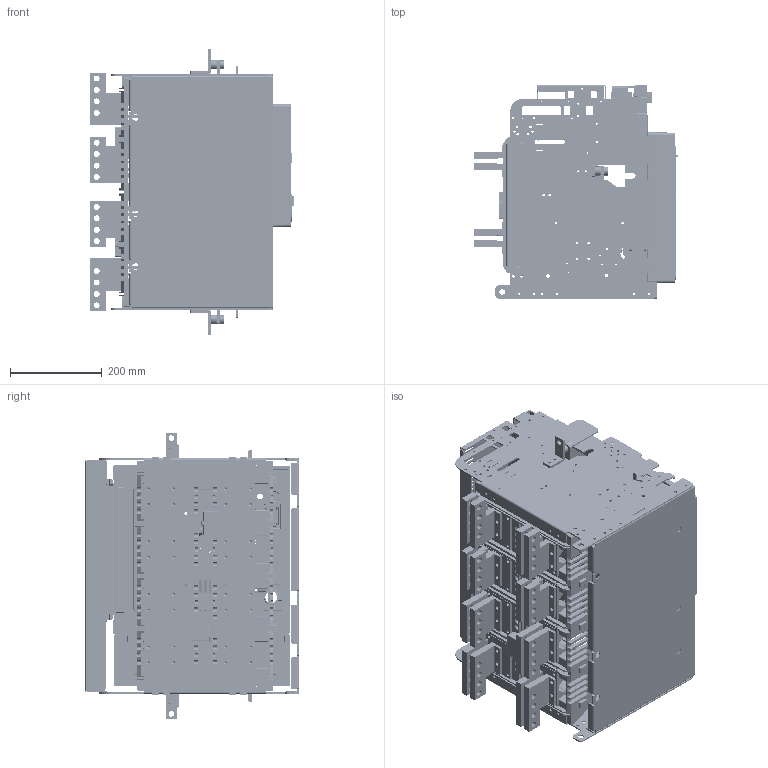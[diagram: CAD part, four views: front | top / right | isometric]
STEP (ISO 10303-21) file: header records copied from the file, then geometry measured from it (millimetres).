
FILE_DESCRIPTION((''),'2;1');
FILE_NAME('HG_17_B404H_ASM_ASM','2019-03-27T',('HHI'),(''),'PRO/ENGINEER BY PARAMETRIC TECHNOLOGY CORPORATION, 2012453','PRO/ENGINEER BY PARAMETRIC TECHNOLOGY CORPORATION, 2012453','');
FILE_SCHEMA(('CONFIG_CONTROL_DESIGN'));
Products named in the file (47): PRT0221; PRT0222; ASM0061_ASM; PRT0223; PRT0224; PRT0225; ASM0062_ASM; PRT0226; PRT0227; PRT0228; PRT0229; PRT0230; PRT0231; PRT0232; PRT0233; JOINT_TERMINAL_40H_ML_6; JOINT_TERMINAL_40H_MR_7; PRT0234; PRT0236; PRT0237; PRT0238; PRT0239; ASM0065_ASM; PRT0240; PRT0241; PRT0242; ASM0066_ASM; PRT0245; ASM0064_ASM; PRT0246; ASM0063_ASM; PRT0247; PRT0248; PRT0249; PRT0250; PRT0251; ASM0067_ASM; PRT0252; PRT0253; FIX_BLOCK_CRADLE_6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
Assembly tree (64 placements, depth 6):
  HG_17_B404H_ASM_ASM
    B404H_ASM_9_ASM
      ASM0061_ASM
        PRT0221
        PRT0222
      PRT0223
      ASM0062_ASM
        PRT0224
        PRT0225
      PRT0226
      PRT0227
      PRT0228
      PRT0229
      PRT0230  x4
      PRT0231  x4
      PRT0232  x4
      PRT0233  x4
      JOINT_TERMINAL_40H_ML_6  x4
      JOINT_TERMINAL_40H_MR_7  x4
      ASM0063_ASM
        ASM0064_ASM
          PRT0234
          ASM0065_ASM
            PRT0236
            PRT0237
            PRT0238
            PRT0239
          ASM0066_ASM
            PRT0240
            PRT0241
            PRT0242
          PRT0245
        PRT0246
      PRT0247
      ASM0067_ASM
        PRT0248
        PRT0249
        PRT0250
        PRT0251
      ASM0068_ASM
        PRT0252
        PRT0253
        FIX_BLOCK_CRADLE_6
        BOLT_5
    HG_FRONT_COVER_40
    4AT-06477S03
    4AT-06477S04
Bounding box: 446.03 x 466.35 x 626 mm (x, y, z)
Volume: 8029434.9 mm3; surface area: 4245934.8 mm2
Topology: 55 solids, 55 shells, 15936 faces, 46900 edges, 30620 vertices
Faces by surface type: plane 11524, cylinder 3643, torus 251, sphere 164, extrusion 141, cone 132, bspline 81
Entity records: 502689 total; most frequent: CARTESIAN_POINT 95558, ORIENTED_EDGE 87958, DIRECTION 80068, EDGE_CURVE 43979, VECTOR 36478, LINE 36337, VERTEX_POINT 28700, AXIS2_PLACEMENT_3D 21795
